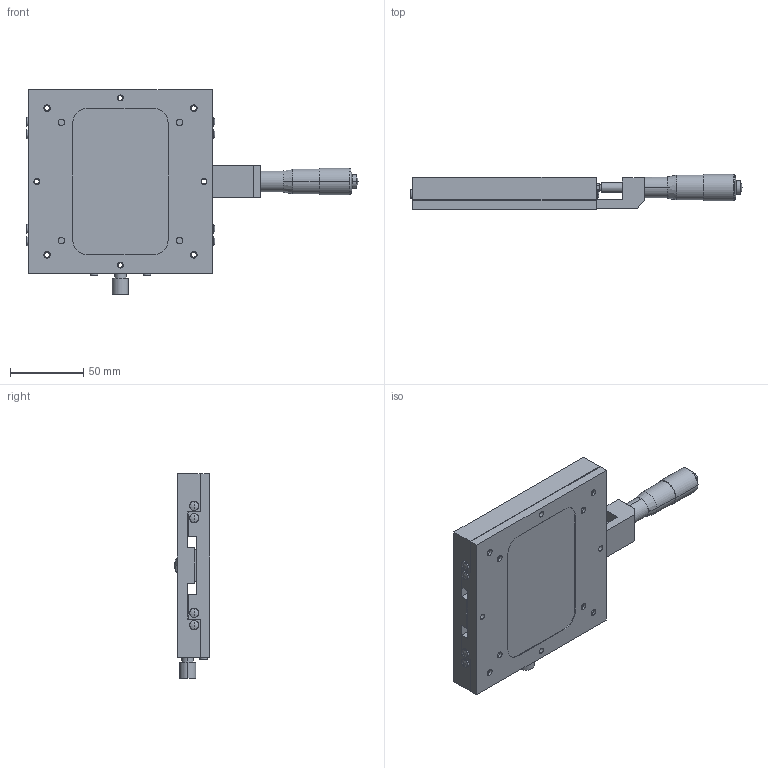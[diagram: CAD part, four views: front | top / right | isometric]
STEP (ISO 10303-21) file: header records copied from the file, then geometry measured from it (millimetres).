
FILE_DESCRIPTION (( 'STEP AP203' ), '1' );
FILE_NAME ('LS-147-C1.STEP', '2008-01-18T02:20:16', ( '' ), ( '' ), 'SwSTEP 2.0', 'SolidWorks 2007', '' );
FILE_SCHEMA (( 'CONFIG_CONTROL_DESIGN' ));
Length unit declared in the file: millimetre
Products named in the file (3): LS-147-C1-2_蹬怮椔; LS-147-C1; LS-147-C1-1_蹬怮椔
Assembly tree (2 placements, depth 2):
  LS-147-C1
    LS-147-C1-2_蹬怮椔
    LS-147-C1-1_蹬怮椔
Bounding box: 226.4 x 24 x 139.3 mm (x, y, z)
Volume: 335726.9 mm3; surface area: 96903.2 mm2
Topology: 3 solids, 3 shells, 280 faces, 670 edges, 438 vertices
Faces by surface type: cylinder 143, plane 89, cone 26, sphere 18, torus 2, bspline 2
Entity records: 9089 total; most frequent: CARTESIAN_POINT 1801, DIRECTION 1584, ORIENTED_EDGE 1336, EDGE_CURVE 668, AXIS2_PLACEMENT_3D 637, VERTEX_POINT 438, EDGE_LOOP 394, CIRCLE 354
